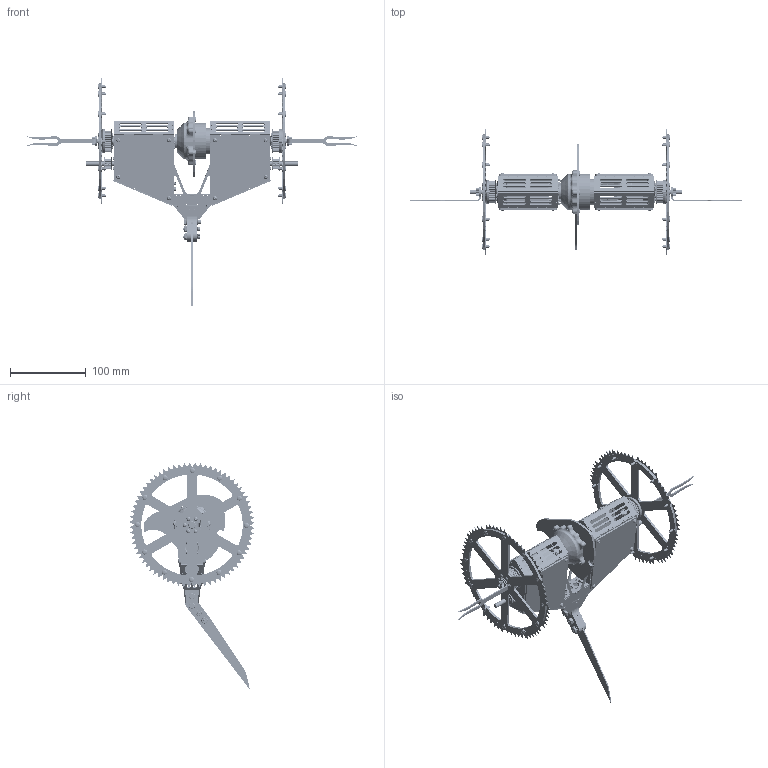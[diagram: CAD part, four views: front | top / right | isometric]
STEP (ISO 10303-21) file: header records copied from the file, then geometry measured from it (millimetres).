
FILE_DESCRIPTION (( 'STEP AP214' ), '1' );
FILE_NAME ('High Steaks For Release.STEP', '2024-09-05T00:37:30', ( '' ), ( '' ), 'SwSTEP 2.0', 'SolidWorks 2022', '' );
FILE_SCHEMA (( 'AUTOMOTIVE_DESIGN' ));
Length unit declared in the file: inch
Products named in the file (58): Steak Cleat; Galaxy 3s 850mAh Lipo; Knife Mount B; 7421K300_ULTRA-LOW-FRICTION OIL-EMBEDDED THRUST BRNG_7421K3; 91255A146_Button Head Hex Drive Screw_91255A146; 94945A205_HIGH-STRENGTH STEEL THIN NYLON-INSERT LOCKNUT_94945A205; 92395A315_BRASS PRESS-FIT EXPANSION INSERT FOR PLASTICS_92395A315; switch half R1.1.IGS; can; Steak Center Rear Inner; Steak Center Rear; copper tab_through hole.IGS; Steak Wheel 6in; Steak Front A; bearing_3760T214; Printed Megaspark Shroud; Tail Mount Plate; magnet_ring; Access Panel B; 94627A110_Low-Strength Steel Thin Nylon-Insert Locknuts (1)_94627A110; 91251A144_Black-Oxide Alloy Steel Socket Head Screw_91251A144; Mini_Power_Switch.IGS; Steak Outer Rail; Mini_Power_Switch; 91251A151_Black-Oxide Alloy Steel Socket Head Screw_91251A151; Access Panel A; TiWeaponShaft; 3536hubmotor HSteaks; 93286A007_Aluminum Washer_93286A007; ring-bearing; ft-bl-mega-spark; Steak Side Rear; 91251A110_Black-Oxide Alloy Steel Socket Head Screw_91251A110; stator; 90633A411_Low-Strength Steel Thin Nylon-Insert Locknut_90633A411; Stator_hub; copper tab.IGS; 15T_pulley_dual.step; Steak Center Rail; 91239A704_Button Head Hex Drive Screw_91239A704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
Assembly tree (192 placements, depth 4):
  High Steaks For Release
    3536hubmotor HSteaks
      can
      Stator_hub
      stator
      ring-bearing
      bearing_3760T214
      magnet_ring
    TBone Disk
    TiWeaponShaft
    94945A205_HIGH-STRENGTH STEEL THIN NYLON-INSERT LOCKNUT_94945A205  x2
    91259A174_Alloy Steel Shoulder Screw_91259A174  x2
    90633A411_Low-Strength Steel Thin Nylon-Insert Locknut_90633A411  x2
    91239A704_Button Head Hex Drive Screw_91239A704  x8
    91251A144_Black-Oxide Alloy Steel Socket Head Screw_91251A144  x4
    95185A110_ZNC-PLTD STL PRESS-IN NUTS FOR SHEET MTL_95185A110  x16
    94627A110_Low-Strength Steel Thin Nylon-Insert Locknuts (1)_94627A110  x4
    91251A151_Black-Oxide Alloy Steel Socket Head Screw_91251A151  x4
    93286A007_Aluminum Washer_93286A007  x4
    97447A020_Aluminum Blind Rivets with Aluminum Mandrel_97447A020  x24
    91251A110_Black-Oxide Alloy Steel Socket Head Screw_91251A110  x2
    91255A106 4-40 x 14 Button Head_91255A106  x16
    7421K300_ULTRA-LOW-FRICTION OIL-EMBEDDED THRUST BRNG_7421K3
    Steak Center Rail  x2
    Steak Outer Rail  x2
    Steak Wheel  x2
      30t_pulley_Steak Hub
      2938T1_High-Load Oil-Embedded Sleeve Bearing_2938T1
      92395A315_BRASS PRESS-FIT EXPANSION INSERT FOR PLASTICS_92395A315
      91255A112_Button Head Hex Drive Screw_91255A112
    ft-bl-mega-spark  x2
    15T_pulley_dual.step  x2
    Galaxy 3s 850mAh Lipo
    BLHeli32-35A  x3
    TopBottom Steak Frame  x2
    Steak Center Rear
    Steak Center Rear Inner
    Steak Wheel 6in  x2
    Steak Cleat  x24
    Tail Mount Plate  x2
    Knife Mount A
    Knife Tail
    Knife Mount B
    Drive Shaft Support  x2
    Steak Front A  x4
    Steak Side Rear  x2
    FORK v2  x2
    Access Panel A  x3
    Access Panel B
    Mini_Power_Switch
      Mini_Power_Switch.IGS
        switch half R1.1.IGS  x2
        copper tab_through hole.IGS
        copper tab.IGS
        SHCS 4-40x375_HX-SHCS 0.112-40x0.375x0.375-S.IGS
    TPU Switch Standoff
    Printed Megaspark Shroud  x2
    91255A146_Button Head Hex Drive Screw_91255A146  x6
Bounding box: 436.88 x 164.99 x 299.02 mm (x, y, z)
Volume: 360518.5 mm3; surface area: 322209.8 mm2
Topology: 275 solids, 275 shells, 28137 faces, 67426 edges, 40826 vertices
Faces by surface type: bspline 10720, plane 8298, cylinder 6584, cone 2279, torus 170, sphere 86
Full cylindrical faces by diameter (mm): 1.587 x24, 1.786 x24, 2.387 x144, 2.705 x4, 2.811 x6, 2.821 x4, 2.845 x128, 2.937 x12, 2.946 x34, 3.175 x26, 3.264 x12, 3.302 x72, 3.378 x2, 3.5 x8, 3.505 x8, 3.658 x14, 3.785 x4, 3.797 x14, 3.969 x12, 4.091 x2, 4.178 x6, 4.216 x16, 4.648 x2, 4.762 x2, 4.826 x8, 4.85 x4, 5.029 x2, 5.41 x16, 5.74 x8, 6.08 x2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
Entity records: 254271 total; most frequent: CARTESIAN_POINT 115612, ORIENTED_EDGE 29924, DIRECTION 24758, EDGE_CURVE 14962, VERTEX_POINT 9689, AXIS2_PLACEMENT_3D 8870, EDGE_LOOP 7045, LINE 7018
